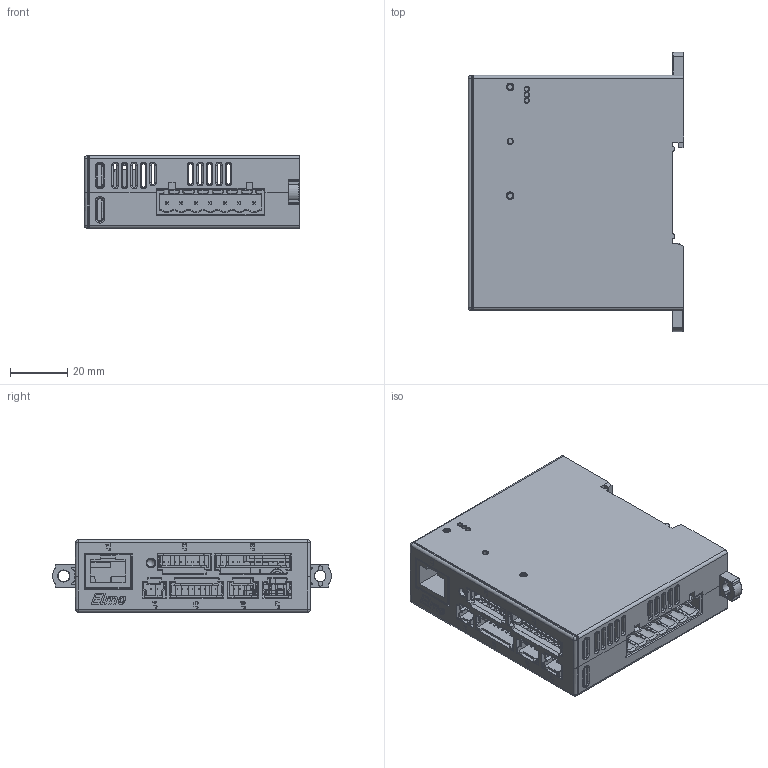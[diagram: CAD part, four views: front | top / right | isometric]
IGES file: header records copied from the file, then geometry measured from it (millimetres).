
Start section: SolidWorks IGES file using analytic representation for surfaces
Global section: file name: F:\ELMO\PRODUCTS\Harmonica\DRAWING\Plastic_files\HARMONICA.IGS; native system: SolidWorks 2006 by SolidWorks Corporation; preprocessor: SolidWorks 2006 by SolidWorks Corporation; author: shlomo; date: 060704.113235; units: millimetre
Bounding box: 75.23 x 97.55 x 25.4 mm (x, y, z)
Surface area: 36151.8 mm2 (no closed solid volume)
Topology: 0 solids, 0 shells, 1496 faces, 10599 edges, 10594 vertices
Faces by surface type: bspline 1096, revolution 400
